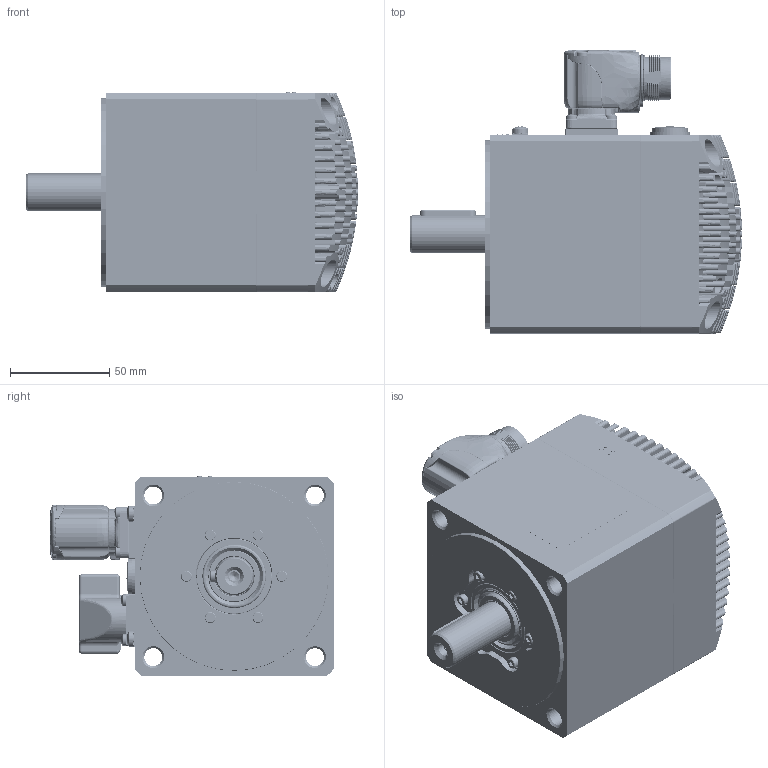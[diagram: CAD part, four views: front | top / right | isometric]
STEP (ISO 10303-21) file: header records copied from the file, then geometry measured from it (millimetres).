
FILE_DESCRIPTION((''),'2;1');
FILE_NAME('32190015644_ASM','2022-04-12T12:51:44',('gabrielec'),(''),'CREO PARAMETRIC BY PTC INC, 2021304','CREO PARAMETRIC BY PTC INC, 2021304','');
FILE_SCHEMA(('AP242_MANAGED_MODEL_BASED_3D_ENGINEERING_MIM_LF { 1 0 10303 442 1 1 4 }'));
Products named in the file (37): 50992N-0; 32149915563_ASM; 22320015066; 22320015066_ASM; 32050015010_ASM; 32060015505_ASM; 51941N-1; 32090015022_ASM; NRG_001; M3X16_GBT70-1; GB_T862_1; M4X8_GBT818_CU; 32159915173_ASM; 22160015160; MENTOR-1292_9013; CEMBRE_FD9; CEMBRE_2053M16N; 32150015177_ASM; PHOENIX-1605586; 33000015098_AF0_ASM; UNI7687_M3X8_INOX; CORPO_3; 33200303857_ASM; 31500303857_AF0_ASM; 50941N-0; UNI7687_M3X6_INOX; UNI5931_M3X6_INOX; 22210015021; 32150015176_ASM; UNI5931_M4X16; LIP_SEAL_TW05; 22250015024; 22250015126; 43500000229; 43500000050; L_6X6-28_UNI6604; 32190015644_ASM
Assembly tree (60 placements, depth 7):
  32190015644_ASM
    32159915173_ASM
      32149915563_ASM
        50992N-0
      32090015022_ASM
        32060015505_ASM
          32050015010_ASM
            22320015066_ASM
              22320015066
        51941N-1
      NRG_001  x6
      M3X16_GBT70-1  x6
      GB_T862_1  x2
      M4X8_GBT818_CU  x2
    32150015177_ASM
      22160015160
      MENTOR-1292_9013  x4
      CEMBRE_FD9
      CEMBRE_2053M16N
    33000015098_AF0_ASM
      PHOENIX-1605586
    UNI7687_M3X8_INOX  x4
    31500303857_AF0_ASM
      33200303857_ASM
        CORPO_3
    50941N-0  x2
    UNI7687_M3X6_INOX  x3
    UNI5931_M3X6_INOX
    32150015176_ASM
      22210015021
    UNI5931_M4X16  x4
    LIP_SEAL_TW05
    22250015024
    22250015126
    43500000229
    43500000050
    L_6X6-28_UNI6604
Bounding box: 167 x 142.41 x 100.5 mm (x, y, z)
Volume: 500382.6 mm3; surface area: 252814.8 mm2
Topology: 69 solids, 96 shells, 4442 faces, 11208 edges, 7105 vertices
Faces by surface type: plane 1551, cylinder 1045, cone 637, bspline 612, torus 332, sphere 243, revolution 11, extrusion 11
Entity records: 196947 total; most frequent: CARTESIAN_POINT 67714, ORIENTED_EDGE 20092, DIRECTION 18168, PRESENTATION_STYLE_ASSIGNMENT 10486, STYLED_ITEM 10127, EDGE_CURVE 10099, CURVE_STYLE 10055, AXIS2_PLACEMENT_3D 7035
